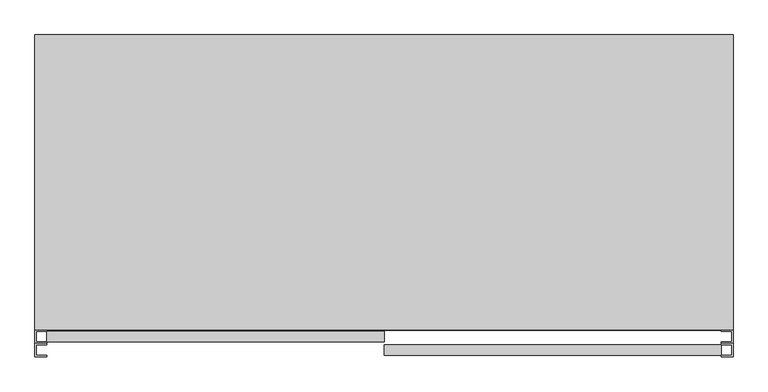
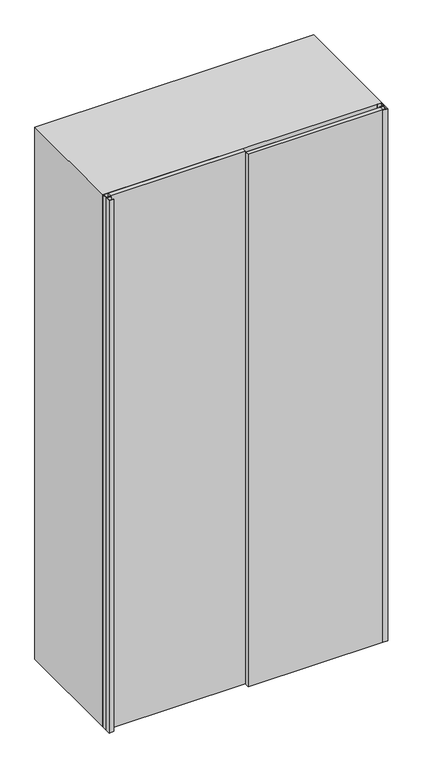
"""IFC4 building model written with IfcOpenShell, lengths in millimetres: furniture geometry, ARQ-MB-IN-Mad-Me3 : ARQ-MB-IN-Mad-Me."""

from ifc_helpers import new_model, si_unit, frame, origin, origin_with_axes, place, context, project, spatial, polyline, outline, extrude, source, transform, mapped, element, save


def furniture_0ec30544(model_context):
    return source(origin(), model_context, "Body", "SweptSolid", [
        extrude(outline(polyline([(2082.0, 53.7003264), (2082.0, 35.7003264), (1616.0, 35.7003264), (1616.0, -457.2996736), (1598.0, -457.2996736), (1598.0, 35.7003264), (1132.0, 35.7003264), (1132.0, -457.2996736), (1114.0, -457.2996736), (1114.0, 35.7003264), (648.0, 35.7003264), (648.0, -457.2996736), (630.0, -457.2996736), (630.0, 35.7003264), (100.0, 35.7003264), (100.0, 53.7003264), (1132.0, 53.7003264), (1598.0, 53.7003264), (1598.0, 546.7003264), (1616.0, 546.7003264), (1616.0, 53.7003264), (2082.0, 53.7003264)])), frame((0.0, -340.0, 0.0), z_axis=(0.0, 1.0, 0.0), x_axis=(0.0, 0.0, 1.0)), (0.0, 0.0, 1.0), 440.0),
        extrude(outline(polyline([(2100.0, 564.7003264), (2100.0, -475.2996736), (0.0, -475.2996736), (0.0, -457.2996736), (82.0, -457.2996736), (82.0, 546.7003264), (0.0, 546.7003264), (0.0, 564.7003264), (2100.0, 564.7003264)]), holes=[polyline([(100.0, 546.7003264), (100.0, -457.2996736), (2082.0, -457.2996736), (2082.0, 546.7003264), (100.0, 546.7003264)])]), frame((0.0, -340.0, 0.0), z_axis=(0.0, 1.0, 0.0), x_axis=(0.0, 0.0, 1.0)), (0.0, 0.0, 1.0), 440.0),
        extrude(outline(polyline([(546.7003264, -378.0), (44.7003264, -378.0), (44.7003264, -362.0), (546.7003264, -362.0), (546.7003264, -378.0)])), origin_with_axes(), (0.0, 0.0, 1.0), 2100.0),
        extrude(outline(polyline([(564.7003264, -360.0), (564.7003264, -380.0), (546.7003264, -380.0), (546.7003264, -378.0), (562.7003264, -378.0), (562.7003264, -362.0), (546.7003264, -362.0), (546.7003264, -360.0), (564.7003264, -360.0)])), origin_with_axes(), (0.0, 0.0, 1.0), 2100.0),
        extrude(outline(polyline([(564.7003264, -340.0), (564.7003264, -360.0), (546.7003264, -360.0), (546.7003264, -358.0), (562.7003264, -358.0), (562.7003264, -342.0), (546.7003264, -342.0), (546.7003264, -340.0), (564.7003264, -340.0)])), origin_with_axes(), (0.0, 0.0, 1.0), 2100.0),
        extrude(outline(polyline([(-475.2996736, -380.0), (-475.2996736, -360.0), (-457.2996736, -360.0), (-457.2996736, -362.0), (-473.2996736, -362.0), (-473.2996736, -378.0), (-457.2996736, -378.0), (-457.2996736, -380.0), (-475.2996736, -380.0)])), origin_with_axes(), (0.0, 0.0, 1.0), 2100.0),
        extrude(outline(polyline([(-457.2996736, -340.0), (-457.2996736, -342.0), (-473.2996736, -342.0), (-473.2996736, -358.0), (-457.2996736, -358.0), (-457.2996736, -360.0), (-475.2996736, -360.0), (-475.2996736, -340.0), (-457.2996736, -340.0)])), origin_with_axes(), (0.0, 0.0, 1.0), 2100.0),
        extrude(outline(polyline([(44.7003264, -358.0), (-457.2996736, -358.0), (-457.2996736, -342.0), (44.7003264, -342.0), (44.7003264, -358.0)])), origin_with_axes(), (0.0, 0.0, 1.0), 2100.0),
    ])


if __name__ == "__main__":
    model = new_model("IFC4")
    model_context = context("Model", 3, world=origin())
    ifc_project = project(units=[si_unit("LENGTHUNIT", "METRE", prefix="MILLI")], contexts=[model_context])
    site = spatial("IfcSite", under=ifc_project)
    building = spatial("IfcBuilding", under=site)
    placement = place(None, origin())
    furniture_shape = furniture_0ec30544(model_context)
    element("IfcFurniture", 1, ObjectType="ARQ-MB-IN-Mad-Me3 : ARQ-MB-IN-Mad-Me", at=placement, inside=building, context=model_context, shape_type="MappedRepresentation", body=[
        mapped(furniture_shape, transform((0.0, 0.0, 0.0), x_axis=(1.0, 0.0, 0.0), y_axis=(0.0, 1.0, 0.0), z_axis=(0.0, 0.0, 1.0))),
    ])
    save(model, "model.ifc")
